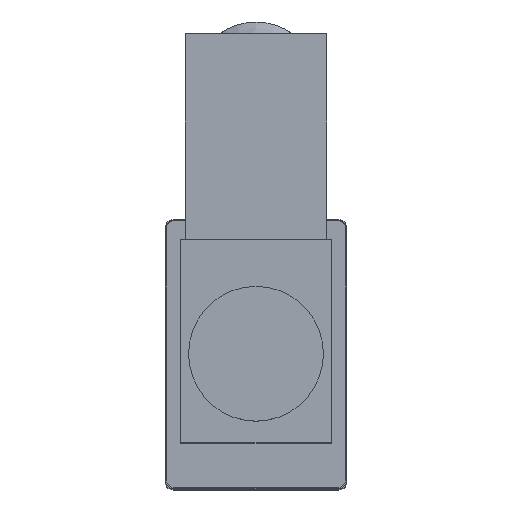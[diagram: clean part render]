
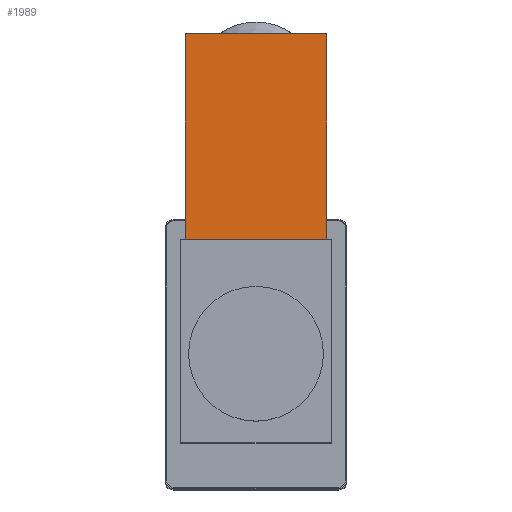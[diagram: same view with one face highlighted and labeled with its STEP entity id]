
A CAD part, top view. The second image highlights one B-rep face of the part: STEP entity #1989.
In plain terms, the highlighted planar face has unit normal (0, 0, 1).
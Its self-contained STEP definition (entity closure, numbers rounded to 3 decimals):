
#37 = CARTESIAN_POINT ( 'NONE',  ( -10.5, 17., 55.7 ) ) ;
#63 = CARTESIAN_POINT ( 'NONE',  ( -10.5, 47.5, 55.7 ) ) ;
#87 = LINE ( 'NONE', #2326, #2782 ) ;
#160 = EDGE_CURVE ( 'NONE', #3258, #2487, #4171, .T. ) ;
#169 = CARTESIAN_POINT ( 'NONE',  ( 10.5, 47.5, 55.7 ) ) ;
#180 = CARTESIAN_POINT ( 'NONE',  ( 10.5, 17., 55.7 ) ) ;
#612 = ORIENTED_EDGE ( 'NONE', *, *, #2584, .T. ) ;
#788 = CARTESIAN_POINT ( 'NONE',  ( -10.5, 47.5, 55.7 ) ) ;
#1197 = DIRECTION ( 'NONE',  ( 0., -1., 0. ) ) ;
#1355 = FACE_OUTER_BOUND ( 'NONE', #3340, .T. ) ;
#1989 = ADVANCED_FACE ( 'NONE', ( #1355 ), #3964, .F. ) ;
#2048 = VERTEX_POINT ( 'NONE', #788 ) ;
#2106 = DIRECTION ( 'NONE',  ( 0., 0., -1. ) ) ;
#2120 = DIRECTION ( 'NONE',  ( 1., 0., 0. ) ) ;
#2158 = CARTESIAN_POINT ( 'NONE',  ( -10.5, 47.5, 55.7 ) ) ;
#2268 = DIRECTION ( 'NONE',  ( -1., 0., 0. ) ) ;
#2326 = CARTESIAN_POINT ( 'NONE',  ( 10.5, 47.5, 55.7 ) ) ;
#2428 = LINE ( 'NONE', #4741, #2843 ) ;
#2429 = ORIENTED_EDGE ( 'NONE', *, *, #3713, .F. ) ;
#2487 = VERTEX_POINT ( 'NONE', #37 ) ;
#2584 = EDGE_CURVE ( 'NONE', #2048, #2487, #3411, .T. ) ;
#2660 = DIRECTION ( 'NONE',  ( 0., -1., 0. ) ) ;
#2782 = VECTOR ( 'NONE', #2660, 1000. ) ;
#2823 = ORIENTED_EDGE ( 'NONE', *, *, #160, .F. ) ;
#2843 = VECTOR ( 'NONE', #2120, 1000. ) ;
#3258 = VERTEX_POINT ( 'NONE', #180 ) ;
#3340 = EDGE_LOOP ( 'NONE', ( #2823, #2429, #3360, #612 ) ) ;
#3360 = ORIENTED_EDGE ( 'NONE', *, *, #4571, .F. ) ;
#3411 = LINE ( 'NONE', #63, #4774 ) ;
#3555 = AXIS2_PLACEMENT_3D ( 'NONE', #2158, #2106, #3640 ) ;
#3640 = DIRECTION ( 'NONE',  ( 0., -1., 0. ) ) ;
#3713 = EDGE_CURVE ( 'NONE', #4499, #3258, #87, .T. ) ;
#3964 = PLANE ( 'NONE',  #3555 ) ;
#4120 = CARTESIAN_POINT ( 'NONE',  ( 0., 17., 55.7 ) ) ;
#4171 = LINE ( 'NONE', #4120, #4773 ) ;
#4499 = VERTEX_POINT ( 'NONE', #169 ) ;
#4571 = EDGE_CURVE ( 'NONE', #2048, #4499, #2428, .T. ) ;
#4741 = CARTESIAN_POINT ( 'NONE',  ( -10.5, 47.5, 55.7 ) ) ;
#4773 = VECTOR ( 'NONE', #2268, 1000. ) ;
#4774 = VECTOR ( 'NONE', #1197, 1000. ) ;
